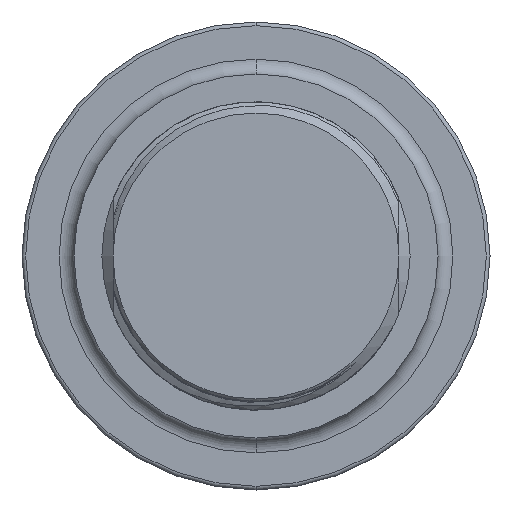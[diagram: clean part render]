
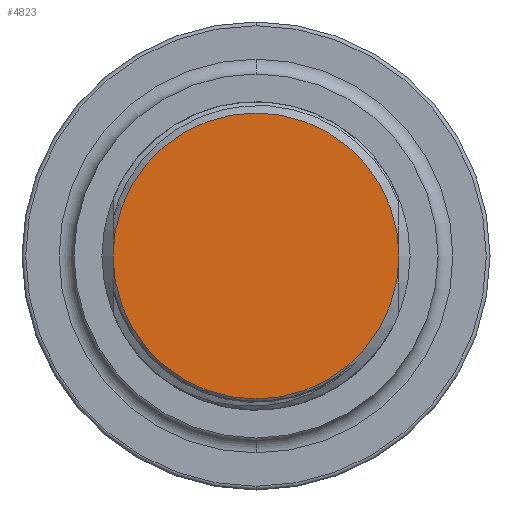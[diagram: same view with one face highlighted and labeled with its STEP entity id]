
A CAD part, front view. The second image highlights one B-rep face of the part: STEP entity #4823.
In plain terms, the highlighted planar face has unit normal (0, -1, 0).
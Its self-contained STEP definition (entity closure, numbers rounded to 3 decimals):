
#3267=CARTESIAN_POINT('',(0.,-11.5,0.));
#3268=DIRECTION('',(0.,-1.,0.));
#3269=DIRECTION('',(-1.,0.,0.));
#3270=AXIS2_PLACEMENT_3D('',#3267,#3268,#3269);
#3659=CARTESIAN_POINT('',(0.,-11.5,0.));
#3660=DIRECTION('',(0.,-1.,0.));
#3661=DIRECTION('',(1.,0.,0.));
#3662=AXIS2_PLACEMENT_3D('',#3659,#3660,#3661);
#4748=CARTESIAN_POINT('',(-19.25,-11.5,0.));
#4749=CARTESIAN_POINT('',(19.25,-11.5,0.));
#4750=VERTEX_POINT('',#4748);
#4751=VERTEX_POINT('',#4749);
#4812=CARTESIAN_POINT('',(0.,-11.5,0.));
#4813=DIRECTION('',(0.,-1.,0.));
#4814=DIRECTION('',(0.,0.,-1.));
#4815=AXIS2_PLACEMENT_3D('',#4812,#4813,#4814);
#4816=PLANE('',#4815);
#4818=ORIENTED_EDGE('',*,*,#4817,.F.);
#4820=ORIENTED_EDGE('',*,*,#4819,.F.);
#4821=EDGE_LOOP('',(#4818,#4820));
#4822=FACE_OUTER_BOUND('',#4821,.F.);
#4823=ADVANCED_FACE('',(#4822),#4816,.T.);
#3271=CIRCLE('',#3270,19.25);
#3663=CIRCLE('',#3662,19.25);
#4817=EDGE_CURVE('',#4751,#4750,#3663,.T.);
#4819=EDGE_CURVE('',#4750,#4751,#3271,.T.);
